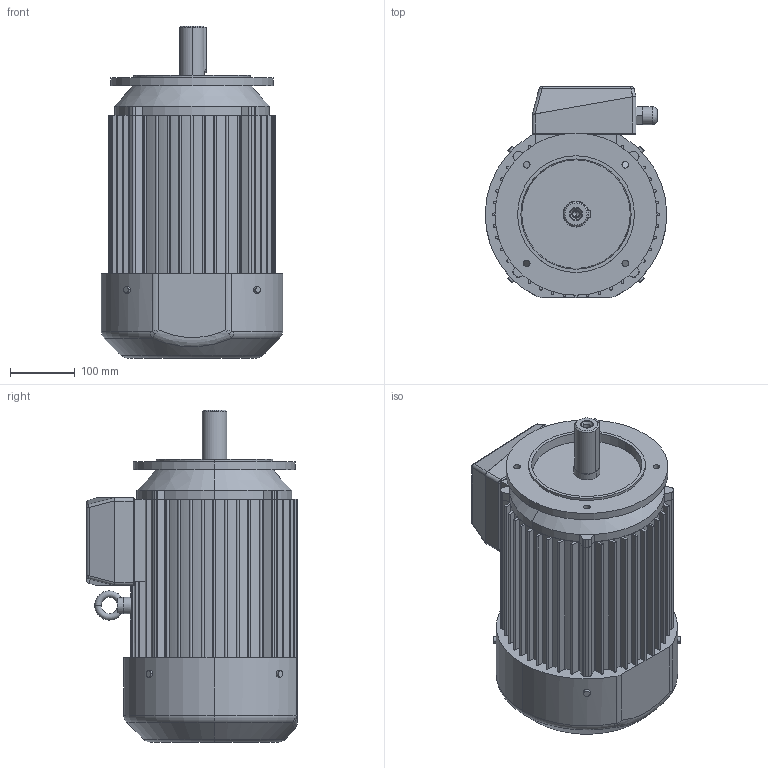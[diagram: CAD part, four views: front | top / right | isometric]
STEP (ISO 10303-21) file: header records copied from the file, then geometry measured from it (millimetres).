
FILE_DESCRIPTION (( 'STEP AP203' ), '1' );
FILE_NAME ('3SIEK132S;M-B14-C1.STEP', '2014-07-22T06:43:51', ( '' ), ( '' ), 'SwSTEP 2.0', 'SolidWorks 2003064', '' );
FILE_SCHEMA (( 'CONFIG_CONTROL_DESIGN' ));
Length unit declared in the file: millimetre
Products named in the file (1): 3SIEK132S;M-B14-C1
Bounding box: 280 x 325 x 512 mm (x, y, z)
Volume: 22950095.3 mm3; surface area: 949886.3 mm2
Topology: 14 solids, 14 shells, 390 faces, 1017 edges, 652 vertices
Faces by surface type: cylinder 180, plane 169, torus 16, cone 16, bspline 5, sphere 4
Entity records: 15749 total; most frequent: CARTESIAN_POINT 5901, DIRECTION 2128, ORIENTED_EDGE 2018, EDGE_CURVE 1009, AXIS2_PLACEMENT_3D 778, VERTEX_POINT 652, LINE 572, VECTOR 572
